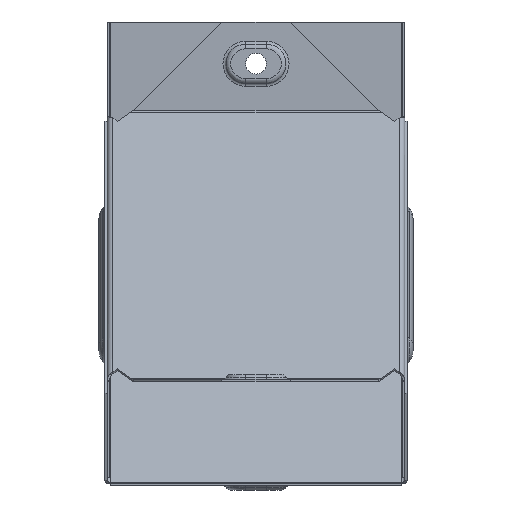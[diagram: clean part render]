
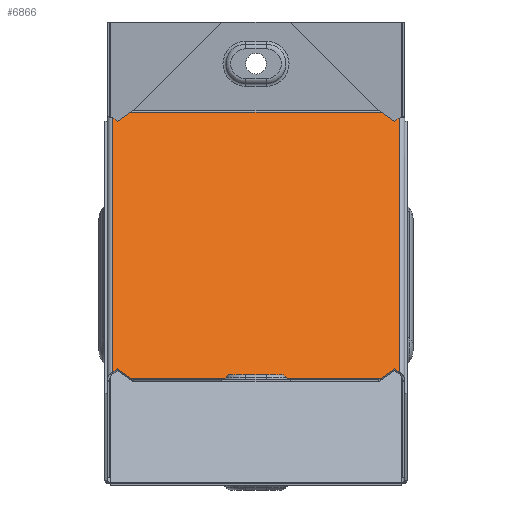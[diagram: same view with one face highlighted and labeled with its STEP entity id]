
A CAD part, front view. The second image highlights one B-rep face of the part: STEP entity #6866.
In plain terms, the highlighted planar face has unit normal (0, -0.707, 0.707).
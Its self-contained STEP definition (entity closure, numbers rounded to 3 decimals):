
#143 = LINE ( 'NONE', #3423, #1129 ) ;
#179 = CARTESIAN_POINT ( 'NONE',  ( 11.546, -51.369, -81.369 ) ) ;
#205 = EDGE_LOOP ( 'NONE', ( #4013, #4551, #3166, #3672, #3679, #2067, #4379, #6900, #6743, #7428, #1947, #484 ) ) ;
#237 = CARTESIAN_POINT ( 'NONE',  ( -11.546, 81.369, 51.369 ) ) ;
#262 = EDGE_CURVE ( 'NONE', #3390, #3716, #143, .T. ) ;
#294 = VERTEX_POINT ( 'NONE', #3986 ) ;
#307 = VERTEX_POINT ( 'NONE', #2222 ) ;
#412 = DIRECTION ( 'NONE',  ( 0.707, -0.5, -0.5 ) ) ;
#476 = CARTESIAN_POINT ( 'NONE',  ( 50.299, 59.208, 29.208 ) ) ;
#484 = ORIENTED_EDGE ( 'NONE', *, *, #1940, .F. ) ;
#510 = EDGE_CURVE ( 'NONE', #3716, #2937, #4545, .T. ) ;
#738 = CARTESIAN_POINT ( 'NONE',  ( -50.299, -29.208, -59.208 ) ) ;
#822 = CARTESIAN_POINT ( 'NONE',  ( -42.181, -29.707, -59.707 ) ) ;
#934 = LINE ( 'NONE', #1417, #3733 ) ;
#992 = DIRECTION ( 'NONE',  ( -0.707, 0.5, 0.5 ) ) ;
#1129 = VECTOR ( 'NONE', #992, 1000. ) ;
#1139 = VERTEX_POINT ( 'NONE', #7433 ) ;
#1339 = DIRECTION ( 'NONE',  ( -0.707, -0.5, -0.5 ) ) ;
#1351 = LINE ( 'NONE', #476, #5693 ) ;
#1368 = EDGE_CURVE ( 'NONE', #5830, #5929, #4718, .T. ) ;
#1378 = CARTESIAN_POINT ( 'NONE',  ( 48.2, 60., 30. ) ) ;
#1397 = DIRECTION ( 'NONE',  ( 0.707, -0.5, -0.5 ) ) ;
#1417 = CARTESIAN_POINT ( 'NONE',  ( -11.546, -51.369, -81.369 ) ) ;
#1424 = VERTEX_POINT ( 'NONE', #6630 ) ;
#1502 = EDGE_CURVE ( 'NONE', #1139, #6475, #934, .T. ) ;
#1673 = VECTOR ( 'NONE', #3255, 1000. ) ;
#1769 = VECTOR ( 'NONE', #7245, 1000. ) ;
#1872 = CARTESIAN_POINT ( 'NONE',  ( 48.2, 60., 30. ) ) ;
#1940 = EDGE_CURVE ( 'NONE', #1424, #294, #3445, .T. ) ;
#1947 = ORIENTED_EDGE ( 'NONE', *, *, #3006, .T. ) ;
#1999 = EDGE_CURVE ( 'NONE', #5721, #7516, #2126, .T. ) ;
#2051 = CARTESIAN_POINT ( 'NONE',  ( 46.592, -26.588, -56.588 ) ) ;
#2067 = ORIENTED_EDGE ( 'NONE', *, *, #510, .T. ) ;
#2105 = DIRECTION ( 'NONE',  ( 0., -0.707, -0.707 ) ) ;
#2108 = EDGE_CURVE ( 'NONE', #7516, #307, #5622, .T. ) ;
#2126 = LINE ( 'NONE', #4911, #1673 ) ;
#2192 = CARTESIAN_POINT ( 'NONE',  ( 50.299, -29.208, -59.208 ) ) ;
#2222 = CARTESIAN_POINT ( 'NONE',  ( -42.181, 59.707, 29.707 ) ) ;
#2293 = VECTOR ( 'NONE', #1339, 1000. ) ;
#2510 = VECTOR ( 'NONE', #5705, 1000. ) ;
#2585 = LINE ( 'NONE', #2192, #6253 ) ;
#2738 = AXIS2_PLACEMENT_3D ( 'NONE', #1378, #6250, #6528 ) ;
#2781 = CARTESIAN_POINT ( 'NONE',  ( 46.592, 56.588, 26.588 ) ) ;
#2937 = VERTEX_POINT ( 'NONE', #6808 ) ;
#2958 = EDGE_CURVE ( 'NONE', #5830, #6475, #5430, .T. ) ;
#3006 = EDGE_CURVE ( 'NONE', #5929, #294, #2585, .T. ) ;
#3166 = ORIENTED_EDGE ( 'NONE', *, *, #2108, .T. ) ;
#3217 = CARTESIAN_POINT ( 'NONE',  ( -46.592, 56.588, 26.588 ) ) ;
#3255 = DIRECTION ( 'NONE',  ( -0.707, 0.5, 0.5 ) ) ;
#3306 = EDGE_CURVE ( 'NONE', #307, #3390, #7530, .T. ) ;
#3390 = VERTEX_POINT ( 'NONE', #3217 ) ;
#3423 = CARTESIAN_POINT ( 'NONE',  ( -50.299, 59.208, 29.208 ) ) ;
#3445 = LINE ( 'NONE', #1872, #6904 ) ;
#3672 = ORIENTED_EDGE ( 'NONE', *, *, #3306, .T. ) ;
#3673 = DIRECTION ( 'NONE',  ( 0., -0.707, -0.707 ) ) ;
#3679 = ORIENTED_EDGE ( 'NONE', *, *, #262, .T. ) ;
#3716 = VERTEX_POINT ( 'NONE', #6055 ) ;
#3733 = VECTOR ( 'NONE', #1397, 1000. ) ;
#3757 = DIRECTION ( 'NONE',  ( -1., 0., 0. ) ) ;
#3986 = CARTESIAN_POINT ( 'NONE',  ( 48.2, -27.724, -57.724 ) ) ;
#4013 = ORIENTED_EDGE ( 'NONE', *, *, #6934, .T. ) ;
#4156 = LINE ( 'NONE', #738, #6166 ) ;
#4379 = ORIENTED_EDGE ( 'NONE', *, *, #5496, .T. ) ;
#4411 = CARTESIAN_POINT ( 'NONE',  ( -48.2, 60., 30. ) ) ;
#4535 = CARTESIAN_POINT ( 'NONE',  ( 42.181, 59.707, 29.707 ) ) ;
#4545 = LINE ( 'NONE', #4411, #7487 ) ;
#4551 = ORIENTED_EDGE ( 'NONE', *, *, #1999, .T. ) ;
#4586 = DIRECTION ( 'NONE',  ( -0.707, -0.5, -0.5 ) ) ;
#4679 = FACE_OUTER_BOUND ( 'NONE', #205, .T. ) ;
#4718 = LINE ( 'NONE', #179, #1769 ) ;
#4786 = PLANE ( 'NONE',  #2738 ) ;
#4911 = CARTESIAN_POINT ( 'NONE',  ( 11.546, 81.369, 51.369 ) ) ;
#5021 = CARTESIAN_POINT ( 'NONE',  ( 48.2, -29.707, -59.707 ) ) ;
#5237 = VECTOR ( 'NONE', #3757, 1000. ) ;
#5430 = LINE ( 'NONE', #5021, #5237 ) ;
#5496 = EDGE_CURVE ( 'NONE', #2937, #1139, #4156, .T. ) ;
#5622 = LINE ( 'NONE', #5735, #2510 ) ;
#5693 = VECTOR ( 'NONE', #4586, 1000. ) ;
#5705 = DIRECTION ( 'NONE',  ( -1., 0., 0. ) ) ;
#5721 = VERTEX_POINT ( 'NONE', #2781 ) ;
#5735 = CARTESIAN_POINT ( 'NONE',  ( 48.2, 59.707, 29.707 ) ) ;
#5820 = CARTESIAN_POINT ( 'NONE',  ( 42.181, -29.707, -59.707 ) ) ;
#5830 = VERTEX_POINT ( 'NONE', #5820 ) ;
#5929 = VERTEX_POINT ( 'NONE', #2051 ) ;
#6055 = CARTESIAN_POINT ( 'NONE',  ( -48.2, 57.724, 27.724 ) ) ;
#6166 = VECTOR ( 'NONE', #7221, 1000. ) ;
#6250 = DIRECTION ( 'NONE',  ( 0., 0.707, -0.707 ) ) ;
#6253 = VECTOR ( 'NONE', #412, 1000. ) ;
#6475 = VERTEX_POINT ( 'NONE', #822 ) ;
#6528 = DIRECTION ( 'NONE',  ( 0., 0.707, 0.707 ) ) ;
#6630 = CARTESIAN_POINT ( 'NONE',  ( 48.2, 57.724, 27.724 ) ) ;
#6743 = ORIENTED_EDGE ( 'NONE', *, *, #2958, .F. ) ;
#6808 = CARTESIAN_POINT ( 'NONE',  ( -48.2, -27.724, -57.724 ) ) ;
#6866 = ADVANCED_FACE ( 'NONE', ( #4679 ), #4786, .F. ) ;
#6900 = ORIENTED_EDGE ( 'NONE', *, *, #1502, .T. ) ;
#6904 = VECTOR ( 'NONE', #3673, 1000. ) ;
#6934 = EDGE_CURVE ( 'NONE', #1424, #5721, #1351, .T. ) ;
#7221 = DIRECTION ( 'NONE',  ( 0.707, 0.5, 0.5 ) ) ;
#7245 = DIRECTION ( 'NONE',  ( 0.707, 0.5, 0.5 ) ) ;
#7428 = ORIENTED_EDGE ( 'NONE', *, *, #1368, .T. ) ;
#7433 = CARTESIAN_POINT ( 'NONE',  ( -46.592, -26.588, -56.588 ) ) ;
#7487 = VECTOR ( 'NONE', #2105, 1000. ) ;
#7516 = VERTEX_POINT ( 'NONE', #4535 ) ;
#7530 = LINE ( 'NONE', #237, #2293 ) ;
